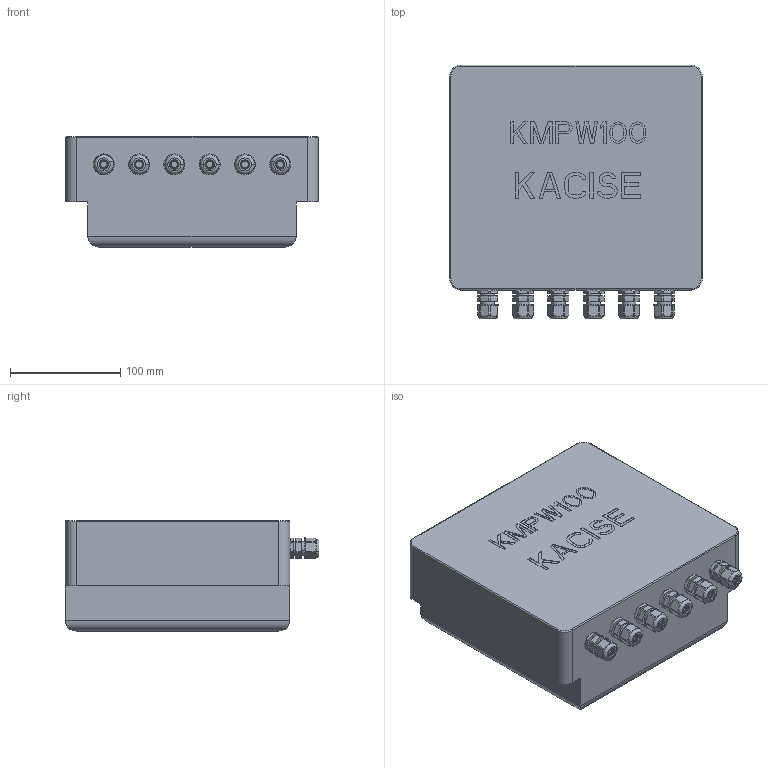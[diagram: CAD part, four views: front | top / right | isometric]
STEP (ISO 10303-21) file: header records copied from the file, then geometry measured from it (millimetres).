
FILE_DESCRIPTION((''),'2;1');
FILE_NAME('ASM0002_ASM','2025-12-25T11:31:25',('28740194'),(''),'CREO PARAMETRIC BY PTC INC, 2024063','CREO PARAMETRIC BY PTC INC, 2024063','');
FILE_SCHEMA(('CONFIG_CONTROL_DESIGN'));
Length unit declared in the file: millimetre
Products named in the file (20): KMPW100_AF0; EV214_27005336_DUMMY; EV214_27005336_02; EV214_27005336_03; EV214_27005336_04; EV214_27005336_06; EV214_27005336_07; EV214_27005336_AF0_ASM; EV214_27005336_DUMMY_MIR; EV214_27005336_02_MIR; EV214_27005336_03_MIR; EV214_27005336_04_MIR; EV214_27005336_06_MIR; EV214_27005336_07_MIR; ASM0003_ASM; EV214_27005336_AF1_ASM; ASM0004_ASM; EV214_27005336_AF2_ASM; ASM0005_ASM; ASM0002_ASM
Assembly tree (43 placements, depth 3):
  ASM0002_ASM
    KMPW100_AF0
    EV214_27005336_AF0_ASM
      EV214_27005336_DUMMY
      EV214_27005336_02
      EV214_27005336_03
      EV214_27005336_04
      EV214_27005336_06
      EV214_27005336_07
    ASM0003_ASM
      EV214_27005336_DUMMY_MIR
      EV214_27005336_02_MIR
      EV214_27005336_03_MIR
      EV214_27005336_04_MIR
      EV214_27005336_06_MIR
      EV214_27005336_07_MIR
    EV214_27005336_AF1_ASM
      EV214_27005336_DUMMY
      EV214_27005336_02
      EV214_27005336_03
      EV214_27005336_04
      EV214_27005336_06
      EV214_27005336_07
    ASM0004_ASM
      EV214_27005336_DUMMY_MIR
      EV214_27005336_02_MIR
      EV214_27005336_03_MIR
      EV214_27005336_04_MIR
      EV214_27005336_06_MIR
      EV214_27005336_07_MIR
    EV214_27005336_AF2_ASM
      EV214_27005336_DUMMY
      EV214_27005336_02
      EV214_27005336_03
      EV214_27005336_04
      EV214_27005336_06
      EV214_27005336_07
    ASM0005_ASM
      EV214_27005336_DUMMY_MIR
      EV214_27005336_02_MIR
      EV214_27005336_03_MIR
      EV214_27005336_04_MIR
      EV214_27005336_06_MIR
      EV214_27005336_07_MIR
Bounding box: 229 x 230.33 x 100 mm (x, y, z)
Volume: 4335033 mm3; surface area: 210756.2 mm2
Topology: 31 solids, 55 shells, 1755 faces, 4842 edges, 3232 vertices
Faces by surface type: plane 1247, cylinder 408, cone 60, torus 40
Entity records: 27210 total; most frequent: CARTESIAN_POINT 5016, DIRECTION 4662, ORIENTED_EDGE 4484, EDGE_CURVE 2258, VECTOR 1634, LINE 1634, AXIS2_PLACEMENT_3D 1514, VERTEX_POINT 1504
